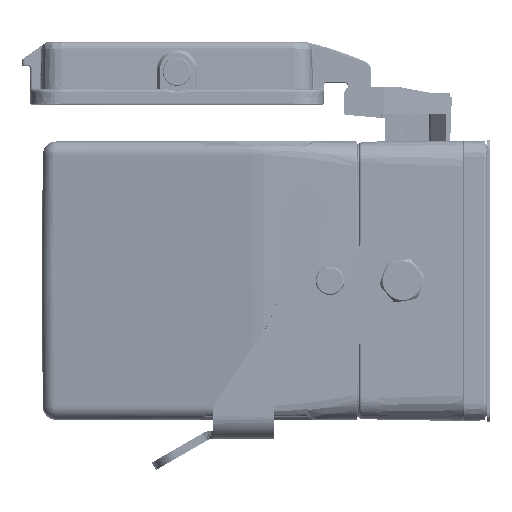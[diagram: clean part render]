
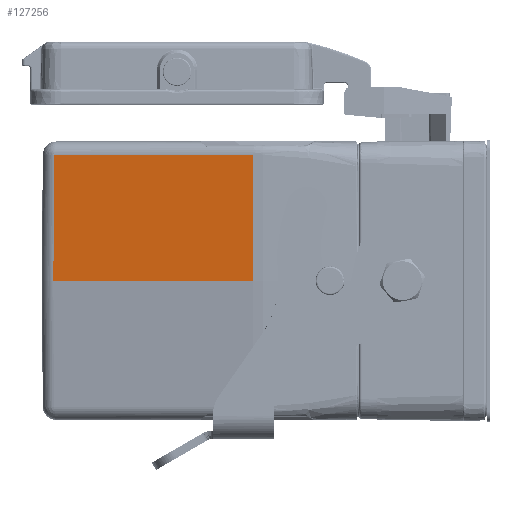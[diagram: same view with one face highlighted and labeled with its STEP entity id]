
A CAD part, left-side view. The second image highlights one B-rep face of the part: STEP entity #127256.
In plain terms, the highlighted planar face has unit normal (-0.99, 0.139, 0.009).
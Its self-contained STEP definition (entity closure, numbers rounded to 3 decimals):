
#35283 = VERTEX_POINT ( 'NONE', #194638 ) ;
#45768 = LINE ( 'NONE', #209963, #420057 ) ;
#75993 = ORIENTED_EDGE ( 'NONE', *, *, #483740, .T. ) ;
#78782 = DIRECTION ( 'NONE',  ( -0.139, -0.99, 0. ) ) ;
#79990 = DIRECTION ( 'NONE',  ( -0.008, 0.009, -1. ) ) ;
#83553 = VECTOR ( 'NONE', #351672, 1000. ) ;
#121499 = CARTESIAN_POINT ( 'NONE',  ( -38., 47., 0. ) ) ;
#127256 = ADVANCED_FACE ( 'NONE', ( #536046 ), #196715, .T. ) ;
#194638 = CARTESIAN_POINT ( 'NONE',  ( -38.201, 43.231, 37.285 ) ) ;
#196715 = PLANE ( 'NONE',  #358937 ) ;
#209963 = CARTESIAN_POINT ( 'NONE',  ( -34.698, 68.154, 37.285 ) ) ;
#219957 = VECTOR ( 'NONE', #79990, 1000. ) ;
#232027 = EDGE_CURVE ( 'NONE', #35283, #394736, #45768, .T. ) ;
#278794 = CARTESIAN_POINT ( 'NONE',  ( -46.805, -15.653, 0. ) ) ;
#299587 = CARTESIAN_POINT ( 'NONE',  ( -38.201, 43.231, 37.285 ) ) ;
#302787 = EDGE_CURVE ( 'NONE', #35283, #339774, #466546, .T. ) ;
#332149 = CARTESIAN_POINT ( 'NONE',  ( -38.484, 43.557, 0. ) ) ;
#339774 = VERTEX_POINT ( 'NONE', #332149 ) ;
#351672 = DIRECTION ( 'NONE',  ( -0.009, 0.001, -1. ) ) ;
#358937 = AXIS2_PLACEMENT_3D ( 'NONE', #121499, #449909, #541501 ) ;
#366931 = ORIENTED_EDGE ( 'NONE', *, *, #302787, .T. ) ;
#394736 = VERTEX_POINT ( 'NONE', #549602 ) ;
#420057 = VECTOR ( 'NONE', #513038, 1000. ) ;
#446135 = EDGE_CURVE ( 'NONE', #394736, #522013, #479648, .T. ) ;
#449909 = DIRECTION ( 'NONE',  ( -0.99, 0.139, 0.009 ) ) ;
#451086 = ORIENTED_EDGE ( 'NONE', *, *, #232027, .F. ) ;
#451661 = CARTESIAN_POINT ( 'NONE',  ( -38., 47., 0. ) ) ;
#466546 = LINE ( 'NONE', #299587, #219957 ) ;
#477041 = LINE ( 'NONE', #451661, #477093 ) ;
#477093 = VECTOR ( 'NONE', #78782, 1000. ) ;
#479648 = LINE ( 'NONE', #513064, #83553 ) ;
#483740 = EDGE_CURVE ( 'NONE', #339774, #522013, #477041, .T. ) ;
#487815 = EDGE_LOOP ( 'NONE', ( #366931, #75993, #531499, #451086 ) ) ;
#513038 = DIRECTION ( 'NONE',  ( -0.139, -0.99, 0. ) ) ;
#513064 = CARTESIAN_POINT ( 'NONE',  ( -46.805, -15.653, -0.001 ) ) ;
#522013 = VERTEX_POINT ( 'NONE', #278794 ) ;
#531499 = ORIENTED_EDGE ( 'NONE', *, *, #446135, .F. ) ;
#536046 = FACE_OUTER_BOUND ( 'NONE', #487815, .T. ) ;
#541501 = DIRECTION ( 'NONE',  ( 0.009, 0., 1. ) ) ;
#549602 = CARTESIAN_POINT ( 'NONE',  ( -46.48, -15.676, 37.285 ) ) ;
